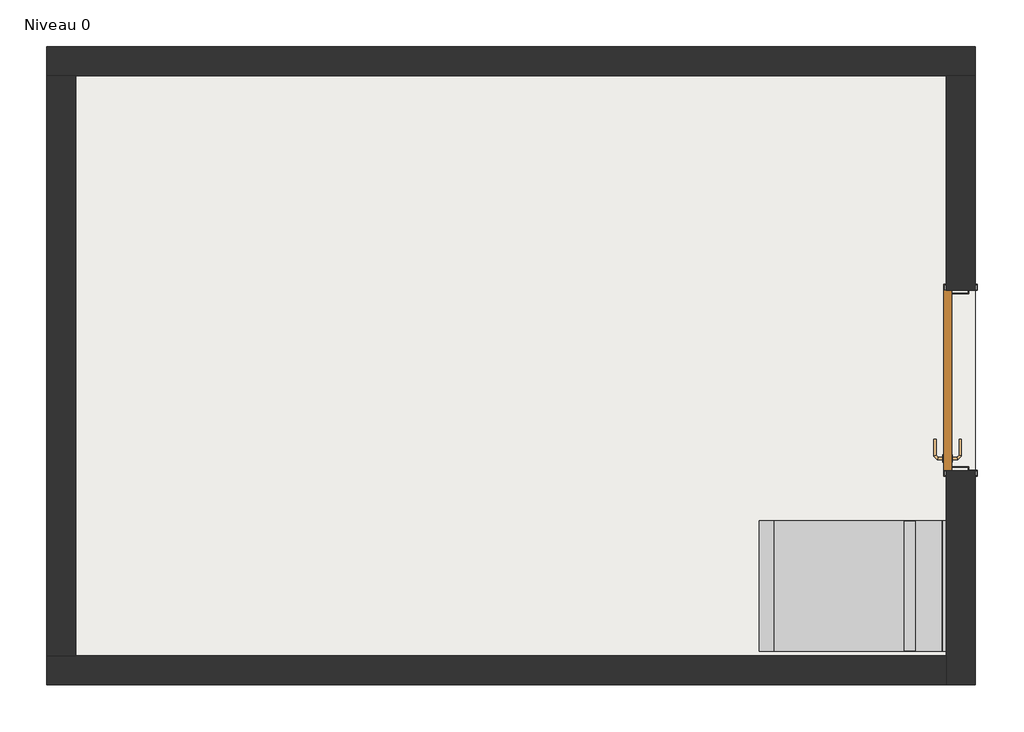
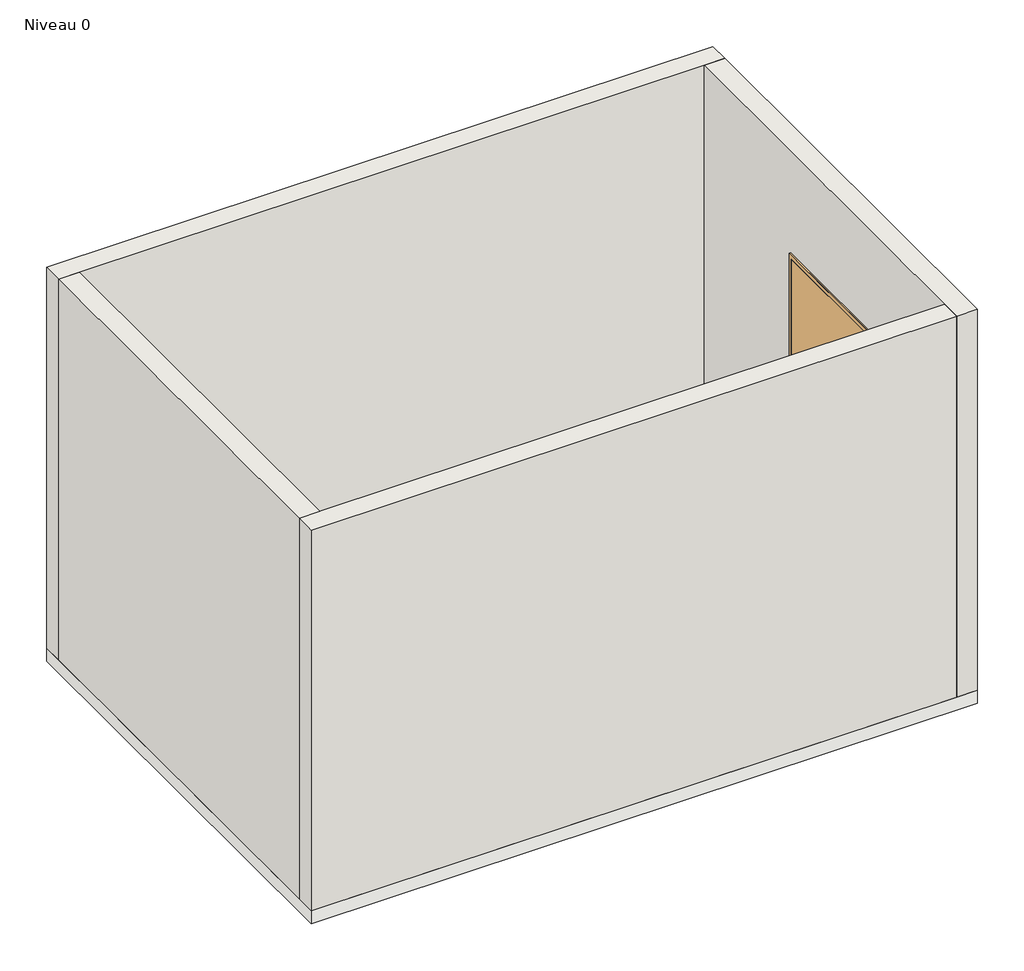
# One storey, incomplete: 4 walls, 1 door, 1 electric appliance, 1 slab.
"""IFC4 building model written with IfcOpenShell, lengths in millimetres."""

from ifc_helpers import new_model, si_unit, frame, origin, origin_with_axes, place, context, project, spatial, polyline, outline, extrude, faceted_brep, transform, mapped, element, save
from components import hm_simple_930_x_2100_480bb5af, cabinet_compact_edge_legrand_wall_mount_f077f431

model = new_model("IFC4")

# Units and contexts
model_context = context("Model", 3, world=origin())
ifc_project = project(units=[si_unit("LENGTHUNIT", "METRE", prefix="MILLI")], contexts=[model_context])

# Site, building, storey
site = spatial("IfcSite", under=ifc_project)
building = spatial("IfcBuilding", under=site)
storey = spatial("IfcBuildingStorey", under=building, Name="Niveau 0", Elevation=0.0)

# Door
placement = place(None, origin())
hm_simple_930_x_2100_shape = hm_simple_930_x_2100_480bb5af(model_context)
element("IfcDoor", 1, ObjectType="HM-Simple : 930 x 2100", at=placement, inside=storey, context=model_context, shape_type="MappedRepresentation", body=[
    mapped(hm_simple_930_x_2100_shape, transform((-8362.1780377, 7216.4323141, 0.0), x_axis=(0.0, 1.0, 0.0), y_axis=(-1.0, 0.0, 0.0), z_axis=(0.0, 0.0, 1.0))),
])

# Electric appliance
cabinet_compact_edge_legrand_wall_mount_shape = cabinet_compact_edge_legrand_wall_mount_f077f431(model_context)
element("IfcElectricAppliance", 2, ObjectType="Cabinet-Compact_Edge-Legrand-Wall_Mount : 4RU, Plexiglass Door, Black", at=placement, inside=storey, context=model_context, shape_type="MappedRepresentation", body=[
    mapped(cabinet_compact_edge_legrand_wall_mount_shape, transform((-9032.4530377, 6153.1043141, 0.0), x_axis=(1.0, 0.0, 0.0), y_axis=(0.0, 1.0, 0.0), z_axis=(0.0, 0.0, 1.0))),
])

# Slab
element("IfcSlab", 3, ObjectType="Dalle en béton - 100 mm", at=placement, inside=storey, context=model_context, shape_type="SweptSolid", body=[
    extrude(outline(polyline([(-8287.1780377, 8941.4323141), (-8287.1780377, 5641.4323141), (-13087.1780377, 5641.4323141), (-13087.1780377, 8941.4323141), (-8287.1780377, 8941.4323141)])), frame((0.0, 0.0, -100.0), z_axis=(0.0, 0.0, 1.0), x_axis=(1.0, 0.0, 0.0)), (0.0, 0.0, 1.0), 100.0),
])

# Walls
element("IfcWall", 4, ObjectType="Ext. Voile BA 10 + Isolant 5", at=placement, inside=storey, context=model_context, shape_type="Brep", body=[
    faceted_brep([(-13087.1780377, 8791.4323141, 0.0), (-12937.1780377, 8791.4323141, 0.0), (-8437.1780377, 8791.4323141, 0.0), (-8287.1780377, 8791.4323141, 0.0), (-8287.1780377, 8791.4323141, 2900.0), (-8437.1780377, 8791.4323141, 2900.0), (-12937.1780377, 8791.4323141, 2900.0), (-13087.1780377, 8791.4323141, 2900.0), (-8287.1780377, 8941.4323141, 0.0), (-13087.1780377, 8941.4323141, 0.0), (-13087.1780377, 8941.4323141, 2900.0), (-8287.1780377, 8941.4323141, 2900.0)], [[[0, 1, 2, 3, 4, 5, 6, 7]], [[8, 9, 10, 11]], [[3, 2, 1, 0, 9, 8]], [[3, 8, 11, 4]], [[9, 0, 7, 10]], [[7, 6, 5, 4, 11, 10]]]),
])
element("IfcWall", 5, ObjectType="Ext. Voile BA 10 + Isolant 5", at=placement, inside=storey, context=model_context, shape_type="Brep", body=[
    faceted_brep([(-8437.1780377, 8791.4323141, 0.0), (-8437.1780377, 7682.9323141, 0.0), (-8437.1780377, 7682.9323141, 2101.5), (-8437.1780377, 6749.9323141, 2101.5), (-8437.1780377, 6749.9323141, 0.0), (-8437.1780377, 5791.4323141, 0.0), (-8437.1780377, 5641.4323141, 0.0), (-8437.1780377, 5641.4323141, 2900.0), (-8437.1780377, 8791.4323141, 2900.0), (-8287.1780377, 7682.9323141, 0.0), (-8287.1780377, 8791.4323141, 0.0), (-8287.1780377, 8791.4323141, 2900.0), (-8287.1780377, 5641.4323141, 2900.0), (-8287.1780377, 5641.4323141, 0.0), (-8287.1780377, 6749.9323141, 0.0), (-8287.1780377, 6749.9323141, 2101.5), (-8287.1780377, 7682.9323141, 2101.5)], [[[0, 1, 2, 3, 4, 5, 6, 7, 8]], [[9, 10, 11, 12, 13, 14, 15, 16]], [[0, 10, 9, 1]], [[13, 6, 5, 4, 14]], [[10, 0, 8, 11]], [[6, 13, 12, 7]], [[16, 2, 1, 9]], [[2, 16, 15, 3]], [[3, 15, 14, 4]], [[8, 7, 12, 11]]]),
])
element("IfcWall", 6, ObjectType="Ext. Voile BA 10 + Isolant 5", at=placement, inside=storey, context=model_context, shape_type="Brep", body=[
    faceted_brep([(-8437.1780377, 5791.4323141, 0.0), (-12937.1780377, 5791.4323141, 0.0), (-13087.1780377, 5791.4323141, 0.0), (-13087.1780377, 5791.4323141, 2900.0), (-12937.1780377, 5791.4323141, 2900.0), (-8437.1780377, 5791.4323141, 2900.0), (-13087.1780377, 5641.4323141, 0.0), (-8437.1780377, 5641.4323141, 0.0), (-8437.1780377, 5641.4323141, 2900.0), (-13087.1780377, 5641.4323141, 2900.0)], [[[0, 1, 2, 3, 4, 5]], [[6, 7, 8, 9]], [[2, 1, 0, 7, 6]], [[7, 0, 5, 8]], [[2, 6, 9, 3]], [[5, 4, 3, 9, 8]]]),
])
element("IfcWall", 7, ObjectType="Ext. Voile BA 10 + Isolant 5", at=placement, inside=storey, context=model_context, shape_type="SweptSolid", body=[
    extrude(outline(polyline([(-12937.1780377, 8791.4323141), (-12937.1780377, 5791.4323141), (-13087.1780377, 5791.4323141), (-13087.1780377, 8791.4323141), (-12937.1780377, 8791.4323141)])), origin_with_axes(), (0.0, 0.0, 1.0), 2900.0),
])

save(model, "model.ifc")
